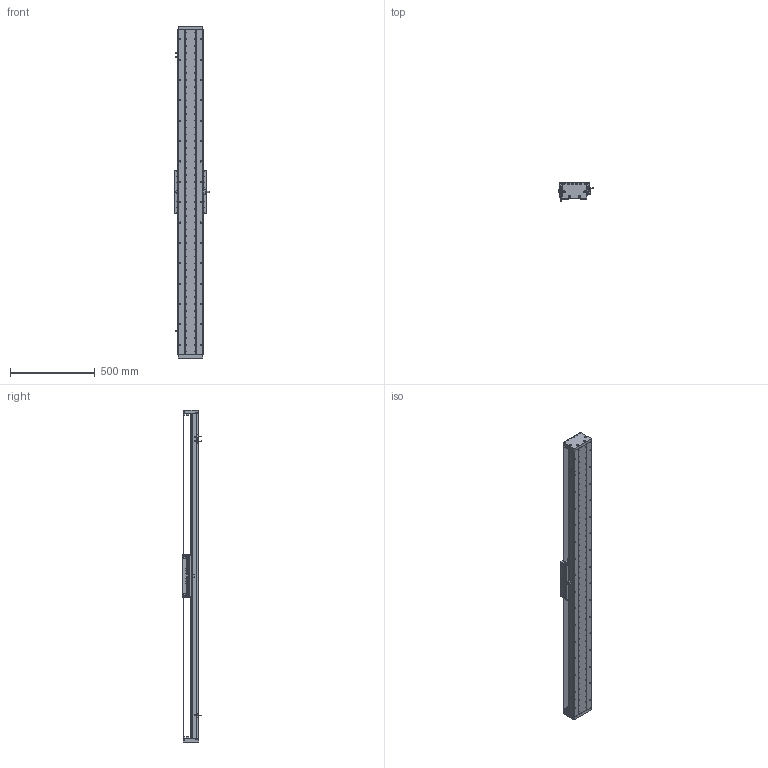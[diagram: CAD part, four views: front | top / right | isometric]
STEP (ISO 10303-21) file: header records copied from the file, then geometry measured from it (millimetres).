
FILE_DESCRIPTION (( 'STEP AP203' ), '1' );
FILE_NAME ('DA-C145-C3-T1620-C010-0.2 眻盄萇儂.STEP', '2025-08-14T01:26:35', ( '' ), ( '' ), 'SwSTEP 2.0', 'SolidWorks 2019', '' );
FILE_SCHEMA (( 'CONFIG_CONTROL_DESIGN' ));
Length unit declared in the file: millimetre
Products named in the file (32): 66245-CU145-HT-W-00 賑雄怢啣(3D芞祧)(00); 葩璃 XD-U-02L 棠掑喜^DA-C145-C3-T-C010-0.2; 复件 DA145-DG 钢带端盖^复件 CU145 钢带组件_DA-C145-C3-T-C010-0.2; TAY01-M8; 葩璃 鞠褒情蹟譫 M3^DA-C145-C3-T-C010-0.2; 葩璃 CKMA01-W060-TRL^DA-C145-C3-T-C010-0.2; IU-CU145-L-00 菁釱(L1920); 葩璃 PM-T45^DA-C145-C3-T-C010-0.2; 复件 内六角平端紧定螺钉 GB.T77-2000 M5×10^CU145-W 滚珠滑台; 复件 纯铜油杯 6x6mm^CU145-W 滚珠滑台; 葩璃 DA95-HXJ-00 遣喳砎蝶^DA-C145-C3-T-C010-0.2; 葩璃 CKM03-W060-C1C2-TP-0.2^DA-C145-C3-T-C010-0.2; 葩璃 DA95-GT-T-00^IU-CU145-L 菁釱絳寢; 复件 DA145-GYP-00 光电感应片^DA-C145-C3-T-C010-0.2; 复件 DA146 钢带垫块^复件 CU145 钢带组件_DA-C145-C3-T-C010-0.2; 复件 DA145-C3-DK-00 挡块^CU145-W 滚珠滑台; DA-C145-C3-T1620-C010-0.2 眻盄萇儂; 复件 DA95-HK-GT-00 滑块钢轨^CU145-W-00 一体化滑动台板; 复件 DA145 钢带^复件 CU145 钢带组件_DA-C145-C3-T-C010-0.2; 复件 DA145-C3-YB-A-00 压板A^CU145-W 滚珠滑台; 复件 DA146 钢带拉块^复件 CU145 钢带组件_DA-C145-C3-T-C010-0.2; IU-CU145-L 菁釱絳寢; 葩璃 DA145-C3-DP-A-00 菜えA^CU145-W 幗紩賑怢; 复件 DA95-DB-00  挡板^CU145-W 滚珠滑台; 葩璃 DMA-010-0.2 黍杅芛^DA-C145-C3-T-C010-0.2; 葩璃 CU145 詩湍郪璃^DA-C145-C3-T-C010-0.2; 葩璃 DA145-C3-DP-B-00 菜えB^CU145-W 幗紩賑怢; 复件 DA95-MFP-01 密封片^CU145-W 滚珠滑台; 复件 半圆头内六角螺钉 M3×6^CU145-W 滚珠滑台; CU145-W 幗紩賑怢; 复件 DA145-C3-YB-B-00 压板B^CU145-W 滚珠滑台; CU145-W-00 珨极趙賑雄怢啣
Assembly tree (103 placements, depth 4):
  DA-C145-C3-T1620-C010-0.2 眻盄萇儂
    IU-CU145-L 菁釱絳寢
      IU-CU145-L-00 菁釱(L1920)
      葩璃 DA95-GT-T-00^IU-CU145-L 菁釱絳寢  x4
    葩璃 CU145 詩湍郪璃^DA-C145-C3-T-C010-0.2
      复件 DA145-DG 钢带端盖^复件 CU145 钢带组件_DA-C145-C3-T-C010-0.2  x2
      复件 DA146 钢带拉块^复件 CU145 钢带组件_DA-C145-C3-T-C010-0.2  x2
      复件 DA146 钢带垫块^复件 CU145 钢带组件_DA-C145-C3-T-C010-0.2  x2
      复件 DA145 钢带^复件 CU145 钢带组件_DA-C145-C3-T-C010-0.2
    CU145-W 幗紩賑怢
      CU145-W-00 珨极趙賑雄怢啣
        66245-CU145-HT-W-00 賑雄怢啣(3D芞祧)(00)
        复件 DA95-HK-GT-00 滑块钢轨^CU145-W-00 一体化滑动台板  x8
      复件 DA95-MFP-01 密封片^CU145-W 滚珠滑台  x8
      复件 DA95-DB-00  挡板^CU145-W 滚珠滑台  x8
      复件 内六角平端紧定螺钉 GB.T77-2000 M5×10^CU145-W 滚珠滑台  x4
      复件 纯铜油杯 6x6mm^CU145-W 滚珠滑台  x4
      复件 半圆头内六角螺钉 M3×6^CU145-W 滚珠滑台  x16
      复件 DA145-C3-DK-00 挡块^CU145-W 滚珠滑台  x4
      葩璃 DA145-C3-DP-B-00 菜えB^CU145-W 幗紩賑怢  x2
      复件 DA145-C3-YB-B-00 压板B^CU145-W 滚珠滑台  x2
      葩璃 DA145-C3-DP-A-00 菜えA^CU145-W 幗紩賑怢  x3
      复件 DA145-C3-YB-A-00 压板A^CU145-W 滚珠滑台  x3
      TAY01-M8  x4
    葩璃 CKMA01-W060-TRL^DA-C145-C3-T-C010-0.2
    葩璃 PM-T45^DA-C145-C3-T-C010-0.2  x3
    葩璃 XD-U-02L 棠掑喜^DA-C145-C3-T-C010-0.2
    葩璃 DA95-HXJ-00 遣喳砎蝶^DA-C145-C3-T-C010-0.2  x4
    复件 DA145-GYP-00 光电感应片^DA-C145-C3-T-C010-0.2
    葩璃 DMA-010-0.2 黍杅芛^DA-C145-C3-T-C010-0.2
    葩璃 CKM03-W060-C1C2-TP-0.2^DA-C145-C3-T-C010-0.2
    葩璃 鞠褒情蹟譫 M3^DA-C145-C3-T-C010-0.2  x8
Bounding box: 203.5 x 108.45 x 1956 mm (x, y, z)
Volume: 9814618.2 mm3; surface area: 3188234.1 mm2
Topology: 99 solids, 131 shells, 4387 faces, 12152 edges, 7566 vertices
Faces by surface type: cylinder 2035, plane 1584, cone 690, torus 74, sphere 4
Entity records: 111566 total; most frequent: CARTESIAN_POINT 31146, ORIENTED_EDGE 15824, DIRECTION 15519, EDGE_CURVE 7912, AXIS2_PLACEMENT_3D 5818, VERTEX_POINT 5105, VECTOR 3883, LINE 3883
